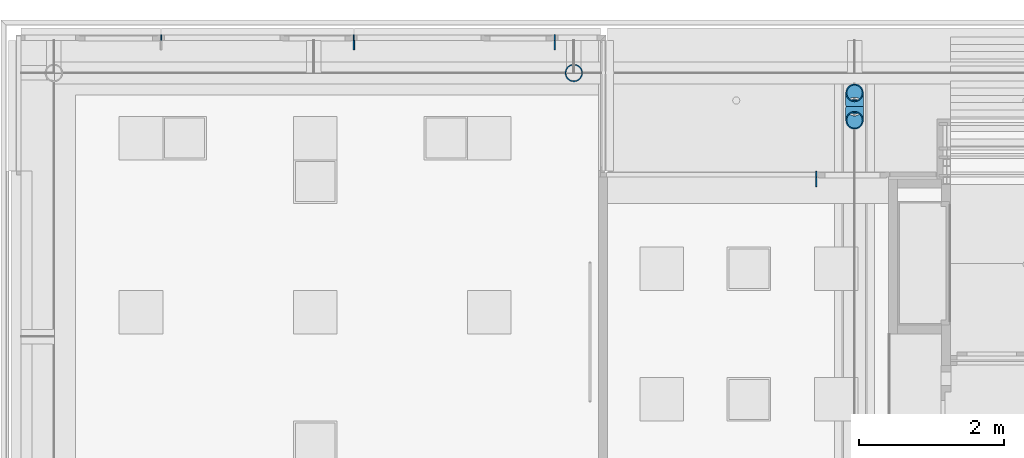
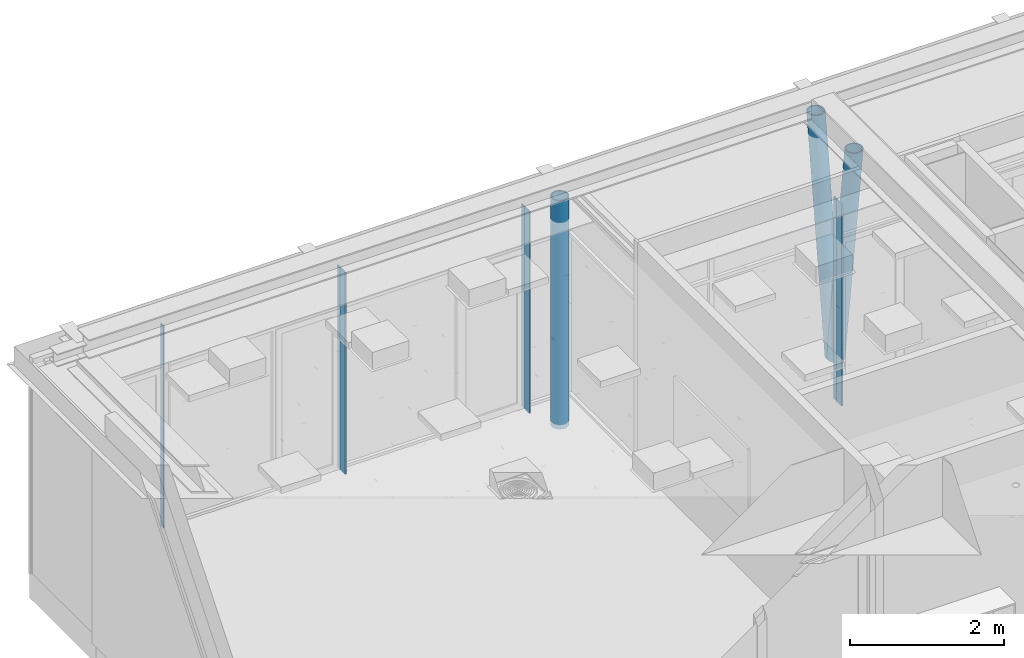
# One storey, part 19 of 347: 10 columns.
"""IFC2X3 building model written with IfcOpenShell, lengths in millimetres."""

from ifc_helpers import new_model, entity, si_unit, converted_unit, derived_unit, money_unit, direction, frame, origin_with_axes, place, context, subcontext, project, spatial, faceted_brep, material, type_object, element, save


model = new_model("IFC2X3")

# Units and contexts
model_context = context("Model", 3, precision=0.01, world=origin_with_axes(), true_north=direction((0.0, 1.0)))
plan_context = context("Plan", 3, precision=0.01, world=origin_with_axes(), true_north=direction((0.0, 1.0)))
body_context = subcontext(model_context, "Body", "Model", "MODEL_VIEW")
ifc_project = project(units=[si_unit("LENGTHUNIT", "METRE", prefix="MILLI"), si_unit("AREAUNIT", "SQUARE_METRE"), si_unit("VOLUMEUNIT", "CUBIC_METRE"), converted_unit("PLANEANGLEUNIT", "DEGREE", entity("IfcPlaneAngleMeasure", 0.0174532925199), si_unit("PLANEANGLEUNIT", "RADIAN"), dimensions=[0, 0, 0, 0, 0, 0, 0]), money_unit("EUR"), converted_unit("TIMEUNIT", "Year", entity("IfcTimeMeasure", 31556926.0), si_unit("TIMEUNIT", "SECOND"), dimensions=[0, 0, 1, 0, 0, 0, 0]), si_unit("MASSUNIT", "GRAM", prefix="KILO"), si_unit("THERMODYNAMICTEMPERATUREUNIT", "DEGREE_CELSIUS"), si_unit("LUMINOUSINTENSITYUNIT", "LUMEN"), si_unit("ENERGYUNIT", "JOULE", prefix="MEGA"), derived_unit("THERMALCONDUCTANCEUNIT", [(si_unit("POWERUNIT", "WATT"), 1), (si_unit("LENGTHUNIT", "METRE"), -1), (si_unit("THERMODYNAMICTEMPERATUREUNIT", "KELVIN"), -1)]), derived_unit("SPECIFICHEATCAPACITYUNIT", [(si_unit("ENERGYUNIT", "JOULE"), 1), (si_unit("MASSUNIT", "GRAM", prefix="KILO"), -1), (si_unit("THERMODYNAMICTEMPERATUREUNIT", "KELVIN"), -1)]), derived_unit("MASSDENSITYUNIT", [(si_unit("MASSUNIT", "GRAM", prefix="KILO"), 1), (si_unit("VOLUMEUNIT", "CUBIC_METRE"), -1)])], contexts=[model_context, plan_context])

# Site, building, storey
site_placement = place(None, origin_with_axes())
site = spatial("IfcSite", under=ifc_project, at=site_placement, Name="Site", CompositionType="ELEMENT")
building_placement = place(site_placement, origin_with_axes())
building = spatial("IfcBuilding", under=site, at=building_placement, Name="Naam gebouw", CompositionType="ELEMENT")
storey_placement = place(building_placement, origin_with_axes())
storey = spatial("IfcBuildingStorey", under=building, at=storey_placement, Name="begane grond", CompositionType="ELEMENT", Elevation=0.0)

# Columns
ifc_material_1 = material(Name="Metaal - Staal C wit")
column_type_1 = type_object("IfcColumnType", Name="Lucht D245", PredefinedType="COLUMN")
column_1_placement = place(storey_placement, frame((31737.5, 46586.9999775, -70.0), z_axis=(0.0, 0.0, 1.0), x_axis=(1.0, 0.0, 0.0)))
element("IfcColumn", 1, at=column_1_placement, inside=storey, type_object=column_type_1, material=ifc_material_1, Name="28_kolom ø 273mm", ObjectType="COLUMN", context=body_context, shape_type="Brep", body=[
    faceted_brep([(-122.25, 0.0, 0.0), (-119.184937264, -27.2031841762, 0.0), (-119.184937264, -27.2031841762, 3630.0), (-122.25, 0.0, 3630.0), (-119.184937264, 27.2031841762, 0.0), (-110.143444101, 53.0422871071, 0.0), (-95.5788987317, 76.2216282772, 0.0), (-76.2216282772, 95.5788987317, 0.0), (-53.0422871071, 110.143444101, 0.0), (-27.2031841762, 119.184937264, 0.0), (0.0, 122.25, 0.0), (27.2031841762, 119.184937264, 0.0), (53.0422871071, 110.143444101, 0.0), (76.2216282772, 95.5788987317, 0.0), (95.5788987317, 76.2216282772, 0.0), (110.143444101, 53.0422871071, 0.0), (119.184937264, 27.2031841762, 0.0), (122.25, 0.0, 0.0), (119.184937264, -27.2031841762, 0.0), (110.143444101, -53.0422871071, 0.0), (95.5788987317, -76.2216282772, 0.0), (76.2216282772, -95.5788987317, 0.0), (53.0422871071, -110.143444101, 0.0), (27.2031841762, -119.184937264, 0.0), (0.0, -122.25, 0.0), (-27.2031841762, -119.184937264, 0.0), (-53.0422871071, -110.143444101, 0.0), (-76.2216282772, -95.5788987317, 0.0), (-95.5788987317, -76.2216282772, 0.0), (-110.143444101, -53.0422871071, 0.0), (-106.25, 0.0, 0.0), (-102.629619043, -27.4995235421, 0.0), (-92.0151991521, -53.125, 0.0), (-75.1300955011, -75.1300955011, 0.0), (-53.125, -92.0151991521, 0.0), (-27.4995235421, -102.629619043, 0.0), (0.0, -106.25, 0.0), (27.4995235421, -102.629619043, 0.0), (53.125, -92.0151991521, 0.0), (75.1300955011, -75.1300955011, 0.0), (92.0151991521, -53.125, 0.0), (102.629619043, -27.4995235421, 0.0), (106.25, 0.0, 0.0), (102.629619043, 27.4995235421, 0.0), (92.0151991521, 53.125, 0.0), (75.1300955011, 75.1300955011, 0.0), (53.125, 92.0151991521, 0.0), (27.4995235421, 102.629619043, 0.0), (0.0, 106.25, 0.0), (-27.4995235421, 102.629619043, 0.0), (-53.125, 92.0151991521, 0.0), (-75.1300955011, 75.1300955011, 0.0), (-92.0151991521, 53.125, 0.0), (-102.629619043, 27.4995235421, 0.0), (-110.143444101, -53.0422871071, 3630.0), (-95.5788987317, -76.2216282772, 3630.0), (-76.2216282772, -95.5788987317, 3630.0), (-53.0422871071, -110.143444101, 3630.0), (-27.2031841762, -119.184937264, 3630.0), (0.0, -122.25, 3630.0), (27.2031841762, -119.184937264, 3630.0), (53.0422871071, -110.143444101, 3630.0), (76.2216282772, -95.5788987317, 3630.0), (95.5788987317, -76.2216282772, 3630.0), (110.143444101, -53.0422871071, 3630.0), (119.184937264, -27.2031841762, 3630.0), (122.25, 0.0, 3630.0), (119.184937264, 27.2031841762, 3630.0), (110.143444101, 53.0422871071, 3630.0), (95.5788987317, 76.2216282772, 3630.0), (76.2216282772, 95.5788987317, 3630.0), (53.0422871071, 110.143444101, 3630.0), (27.2031841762, 119.184937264, 3630.0), (0.0, 122.25, 3630.0), (-27.2031841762, 119.184937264, 3630.0), (-53.0422871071, 110.143444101, 3630.0), (-76.2216282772, 95.5788987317, 3630.0), (-95.5788987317, 76.2216282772, 3630.0), (-110.143444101, 53.0422871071, 3630.0), (-119.184937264, 27.2031841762, 3630.0), (-106.25, 0.0, 3630.0), (-102.629619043, 27.4995235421, 3630.0), (-92.0151991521, 53.125, 3630.0), (-75.1300955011, 75.1300955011, 3630.0), (-53.125, 92.0151991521, 3630.0), (-27.4995235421, 102.629619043, 3630.0), (0.0, 106.25, 3630.0), (27.4995235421, 102.629619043, 3630.0), (53.125, 92.0151991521, 3630.0), (75.1300955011, 75.1300955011, 3630.0), (92.0151991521, 53.125, 3630.0), (102.629619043, 27.4995235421, 3630.0), (106.25, 0.0, 3630.0), (102.629619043, -27.4995235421, 3630.0), (92.0151991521, -53.125, 3630.0), (75.1300955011, -75.1300955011, 3630.0), (53.125, -92.0151991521, 3630.0), (27.4995235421, -102.629619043, 3630.0), (0.0, -106.25, 3630.0), (-27.4995235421, -102.629619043, 3630.0), (-53.125, -92.0151991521, 3630.0), (-75.1300955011, -75.1300955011, 3630.0), (-92.0151991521, -53.125, 3630.0), (-102.629619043, -27.4995235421, 3630.0)], [[[0, 1, 2, 3]], [[0, 4, 5, 6, 7, 8, 9, 10, 11, 12, 13, 14, 15, 16, 17, 18, 19, 20, 21, 22, 23, 24, 25, 26, 27, 28, 29, 1], [30, 31, 32, 33, 34, 35, 36, 37, 38, 39, 40, 41, 42, 43, 44, 45, 46, 47, 48, 49, 50, 51, 52, 53]], [[1, 29, 54, 2]], [[3, 2, 54, 55, 56, 57, 58, 59, 60, 61, 62, 63, 64, 65, 66, 67, 68, 69, 70, 71, 72, 73, 74, 75, 76, 77, 78, 79], [80, 81, 82, 83, 84, 85, 86, 87, 88, 89, 90, 91, 92, 93, 94, 95, 96, 97, 98, 99, 100, 101, 102, 103]], [[4, 0, 3, 79]], [[5, 4, 79, 78]], [[6, 5, 78, 77]], [[7, 6, 77, 76]], [[8, 7, 76, 75]], [[9, 8, 75, 74]], [[10, 9, 74, 73]], [[11, 10, 73, 72]], [[12, 11, 72, 71]], [[13, 12, 71, 70]], [[14, 13, 70, 69]], [[15, 14, 69, 68]], [[16, 15, 68, 67]], [[17, 16, 67, 66]], [[18, 17, 66, 65]], [[19, 18, 65, 64]], [[20, 19, 64, 63]], [[21, 20, 63, 62]], [[22, 21, 62, 61]], [[23, 22, 61, 60]], [[24, 23, 60, 59]], [[25, 24, 59, 58]], [[26, 25, 58, 57]], [[27, 26, 57, 56]], [[28, 27, 56, 55]], [[29, 28, 55, 54]], [[31, 30, 80, 103]], [[32, 31, 103, 102]], [[33, 32, 102, 101]], [[34, 33, 101, 100]], [[35, 34, 100, 99]], [[36, 35, 99, 98]], [[37, 36, 98, 97]], [[38, 37, 97, 96]], [[39, 38, 96, 95]], [[40, 39, 95, 94]], [[41, 40, 94, 93]], [[42, 41, 93, 92]], [[43, 42, 92, 91]], [[44, 43, 91, 90]], [[45, 44, 90, 89]], [[46, 45, 89, 88]], [[47, 46, 88, 87]], [[48, 47, 87, 86]], [[49, 48, 86, 85]], [[50, 49, 85, 84]], [[51, 50, 84, 83]], [[52, 51, 83, 82]], [[53, 52, 82, 81]], [[30, 53, 81, 80]]]),
])
column_2_placement = place(storey_placement, frame((35605.0, 46102.3770701, -70.0), z_axis=(0.0, 0.0, 1.0), x_axis=(-1.0, 0.0, 0.0)))
element("IfcColumn", 2, at=column_2_placement, inside=storey, type_object=column_type_1, material=ifc_material_1, Name="28_kolom ø 273mm", ObjectType="COLUMN", context=body_context, shape_type="Brep", body=[
    faceted_brep([(119.184937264, 27.4379193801, 0.0), (110.143444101, 53.4999869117, 0.0), (110.143444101, 528.765503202, 3610.0), (119.184937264, 502.703435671, 3610.0), (122.25, 0.0, 0.0), (119.184937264, -27.4379193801, 0.0), (110.143444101, -53.4999869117, 0.0), (95.5788987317, -76.879341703, 0.0), (76.2216282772, -96.4036452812, 0.0), (53.0422871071, -111.093867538, 0.0), (27.2031841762, -120.21337939, 0.0), (0.0, -123.304890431, 0.0), (-27.2031841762, -120.21337939, 0.0), (-53.0422871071, -111.093867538, 0.0), (-76.2216282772, -96.4036452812, 0.0), (-95.5788987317, -76.879341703, 0.0), (-110.143444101, -53.4999869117, 0.0), (-119.184937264, -27.4379193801, 0.0), (-122.25, 0.0, 0.0), (-119.184937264, 27.4379193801, 0.0), (-110.143444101, 53.4999869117, 0.0), (-95.5788987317, 76.879341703, 0.0), (-76.2216282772, 96.4036452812, 0.0), (-53.0422871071, 111.093867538, 0.0), (-27.2031841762, 120.21337939, 0.0), (0.0, 123.304890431, 0.0), (27.2031841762, 120.21337939, 0.0), (53.0422871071, 111.093867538, 0.0), (76.2216282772, 96.4036452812, 0.0), (95.5788987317, 76.879341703, 0.0), (102.629619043, -27.7368158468, 0.0), (106.25, 0.0, 0.0), (102.629619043, 27.7368158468, 0.0), (92.0151991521, 53.5834135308, 0.0), (75.1300955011, 75.7783901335, 0.0), (53.125, 92.8091946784, 0.0), (27.4995235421, 103.51520598, 0.0), (0.0, 107.166827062, 0.0), (-27.4995235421, 103.51520598, 0.0), (-53.125, 92.8091946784, 0.0), (-75.1300955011, 75.7783901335, 0.0), (-92.0151991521, 53.5834135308, 0.0), (-102.629619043, 27.7368158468, 0.0), (-106.25, 0.0, 0.0), (-102.629619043, -27.7368158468, 0.0), (-92.0151991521, -53.5834135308, 0.0), (-75.1300955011, -75.7783901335, 0.0), (-53.125, -92.8091946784, 0.0), (-27.4995235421, -103.51520598, 0.0), (0.0, -107.166827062, 0.0), (27.4995235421, -103.51520598, 0.0), (53.125, -92.8091946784, 0.0), (75.1300955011, -75.7783901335, 0.0), (92.0151991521, -53.5834135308, 0.0), (95.5788987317, 552.144857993, 3610.0), (76.2216282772, 571.669161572, 3610.0), (53.0422871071, 586.359383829, 3610.0), (27.2031841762, 595.47889568, 3610.0), (0.0, 598.570406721, 3610.0), (-27.2031841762, 595.47889568, 3610.0), (-53.0422871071, 586.359383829, 3610.0), (-76.2216282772, 571.669161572, 3610.0), (-95.5788987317, 552.144857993, 3610.0), (-110.143444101, 528.765503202, 3610.0), (-119.184937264, 502.703435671, 3610.0), (-122.25, 475.26551629, 3610.0), (-119.184937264, 447.82759691, 3610.0), (-110.143444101, 421.765529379, 3610.0), (-95.5788987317, 398.386174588, 3610.0), (-76.2216282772, 378.861871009, 3610.0), (-53.0422871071, 364.171648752, 3610.0), (-27.2031841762, 355.052136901, 3610.0), (0.0, 351.96062586, 3610.0), (27.2031841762, 355.052136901, 3610.0), (53.0422871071, 364.171648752, 3610.0), (76.2216282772, 378.861871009, 3610.0), (95.5788987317, 398.386174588, 3610.0), (110.143444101, 421.765529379, 3610.0), (119.184937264, 447.82759691, 3610.0), (122.25, 475.26551629, 3610.0), (102.629619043, 447.528700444, 3610.0), (92.0151991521, 421.68210276, 3610.0), (75.1300955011, 399.487126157, 3610.0), (53.125, 382.456321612, 3610.0), (27.4995235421, 371.75031031, 3610.0), (0.0, 368.098689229, 3610.0), (-27.4995235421, 371.75031031, 3610.0), (-53.125, 382.456321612, 3610.0), (-75.1300955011, 399.487126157, 3610.0), (-92.0151991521, 421.68210276, 3610.0), (-102.629619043, 447.528700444, 3610.0), (-106.25, 475.26551629, 3610.0), (-102.629619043, 503.002332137, 3610.0), (-92.0151991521, 528.848929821, 3610.0), (-75.1300955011, 551.043906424, 3610.0), (-53.125, 568.074710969, 3610.0), (-27.4995235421, 578.780722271, 3610.0), (0.0, 582.432343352, 3610.0), (27.4995235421, 578.780722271, 3610.0), (53.125, 568.074710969, 3610.0), (75.1300955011, 551.043906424, 3610.0), (92.0151991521, 528.848929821, 3610.0), (102.629619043, 503.002332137, 3610.0), (106.25, 475.26551629, 3610.0)], [[[0, 1, 2, 3]], [[0, 4, 5, 6, 7, 8, 9, 10, 11, 12, 13, 14, 15, 16, 17, 18, 19, 20, 21, 22, 23, 24, 25, 26, 27, 28, 29, 1], [30, 31, 32, 33, 34, 35, 36, 37, 38, 39, 40, 41, 42, 43, 44, 45, 46, 47, 48, 49, 50, 51, 52, 53]], [[1, 29, 54, 2]], [[3, 2, 54, 55, 56, 57, 58, 59, 60, 61, 62, 63, 64, 65, 66, 67, 68, 69, 70, 71, 72, 73, 74, 75, 76, 77, 78, 79], [80, 81, 82, 83, 84, 85, 86, 87, 88, 89, 90, 91, 92, 93, 94, 95, 96, 97, 98, 99, 100, 101, 102, 103]], [[4, 0, 3, 79]], [[5, 4, 79, 78]], [[6, 5, 78, 77]], [[7, 6, 77, 76]], [[8, 7, 76, 75]], [[9, 8, 75, 74]], [[10, 9, 74, 73]], [[11, 10, 73, 72]], [[12, 11, 72, 71]], [[13, 12, 71, 70]], [[14, 13, 70, 69]], [[15, 14, 69, 68]], [[16, 15, 68, 67]], [[17, 16, 67, 66]], [[18, 17, 66, 65]], [[19, 18, 65, 64]], [[20, 19, 64, 63]], [[21, 20, 63, 62]], [[22, 21, 62, 61]], [[23, 22, 61, 60]], [[24, 23, 60, 59]], [[25, 24, 59, 58]], [[26, 25, 58, 57]], [[27, 26, 57, 56]], [[28, 27, 56, 55]], [[29, 28, 55, 54]], [[31, 30, 80, 103]], [[32, 31, 103, 102]], [[33, 32, 102, 101]], [[34, 33, 101, 100]], [[35, 34, 100, 99]], [[36, 35, 99, 98]], [[37, 36, 98, 97]], [[38, 37, 97, 96]], [[39, 38, 96, 95]], [[40, 39, 95, 94]], [[41, 40, 94, 93]], [[42, 41, 93, 92]], [[43, 42, 92, 91]], [[44, 43, 91, 90]], [[45, 44, 90, 89]], [[46, 45, 89, 88]], [[47, 46, 88, 87]], [[48, 47, 87, 86]], [[49, 48, 86, 85]], [[50, 49, 85, 84]], [[51, 50, 84, 83]], [[52, 51, 83, 82]], [[53, 52, 82, 81]], [[30, 53, 81, 80]]]),
])
column_3_placement = place(storey_placement, frame((35605.0, 46145.9641106, -70.0), z_axis=(0.0, 0.0, 1.0), x_axis=(1.0, 0.0, 0.0)))
element("IfcColumn", 3, at=column_3_placement, inside=storey, type_object=column_type_1, material=ifc_material_1, Name="28_kolom ø 273mm", ObjectType="COLUMN", context=body_context, shape_type="Brep", body=[
    faceted_brep([(-122.25, 0.0, 0.0), (-119.184937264, -27.4379193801, 0.0), (-119.184937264, 447.82759691, 3610.0), (-122.25, 475.26551629, 3610.0), (-119.184937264, 27.4379193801, 0.0), (-110.143444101, 53.4999869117, 0.0), (-95.5788987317, 76.879341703, 0.0), (-76.2216282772, 96.4036452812, 0.0), (-53.0422871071, 111.093867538, 0.0), (-27.2031841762, 120.21337939, 0.0), (0.0, 123.304890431, 0.0), (27.2031841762, 120.21337939, 0.0), (53.0422871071, 111.093867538, 0.0), (76.2216282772, 96.4036452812, 0.0), (95.5788987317, 76.879341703, 0.0), (110.143444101, 53.4999869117, 0.0), (119.184937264, 27.4379193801, 0.0), (122.25, 0.0, 0.0), (119.184937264, -27.4379193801, 0.0), (110.143444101, -53.4999869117, 0.0), (95.5788987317, -76.879341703, 0.0), (76.2216282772, -96.4036452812, 0.0), (53.0422871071, -111.093867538, 0.0), (27.2031841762, -120.21337939, 0.0), (0.0, -123.304890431, 0.0), (-27.2031841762, -120.21337939, 0.0), (-53.0422871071, -111.093867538, 0.0), (-76.2216282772, -96.4036452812, 0.0), (-95.5788987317, -76.879341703, 0.0), (-110.143444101, -53.4999869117, 0.0), (-106.25, 0.0, 0.0), (-102.629619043, -27.7368158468, 0.0), (-92.0151991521, -53.5834135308, 0.0), (-75.1300955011, -75.7783901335, 0.0), (-53.125, -92.8091946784, 0.0), (-27.4995235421, -103.51520598, 0.0), (0.0, -107.166827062, 0.0), (27.4995235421, -103.51520598, 0.0), (53.125, -92.8091946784, 0.0), (75.1300955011, -75.7783901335, 0.0), (92.0151991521, -53.5834135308, 0.0), (102.629619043, -27.7368158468, 0.0), (106.25, 0.0, 0.0), (102.629619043, 27.7368158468, 0.0), (92.0151991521, 53.5834135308, 0.0), (75.1300955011, 75.7783901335, 0.0), (53.125, 92.8091946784, 0.0), (27.4995235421, 103.51520598, 0.0), (0.0, 107.166827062, 0.0), (-27.4995235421, 103.51520598, 0.0), (-53.125, 92.8091946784, 0.0), (-75.1300955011, 75.7783901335, 0.0), (-92.0151991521, 53.5834135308, 0.0), (-102.629619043, 27.7368158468, 0.0), (-110.143444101, 421.765529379, 3610.0), (-95.5788987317, 398.386174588, 3610.0), (-76.2216282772, 378.861871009, 3610.0), (-53.0422871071, 364.171648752, 3610.0), (-27.2031841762, 355.052136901, 3610.0), (0.0, 351.96062586, 3610.0), (27.2031841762, 355.052136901, 3610.0), (53.0422871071, 364.171648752, 3610.0), (76.2216282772, 378.861871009, 3610.0), (95.5788987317, 398.386174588, 3610.0), (110.143444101, 421.765529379, 3610.0), (119.184937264, 447.82759691, 3610.0), (122.25, 475.26551629, 3610.0), (119.184937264, 502.703435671, 3610.0), (110.143444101, 528.765503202, 3610.0), (95.5788987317, 552.144857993, 3610.0), (76.2216282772, 571.669161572, 3610.0), (53.0422871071, 586.359383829, 3610.0), (27.2031841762, 595.47889568, 3610.0), (0.0, 598.570406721, 3610.0), (-27.2031841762, 595.47889568, 3610.0), (-53.0422871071, 586.359383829, 3610.0), (-76.2216282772, 571.669161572, 3610.0), (-95.5788987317, 552.144857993, 3610.0), (-110.143444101, 528.765503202, 3610.0), (-119.184937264, 502.703435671, 3610.0), (-106.25, 475.26551629, 3610.0), (-102.629619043, 503.002332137, 3610.0), (-92.0151991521, 528.848929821, 3610.0), (-75.1300955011, 551.043906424, 3610.0), (-53.125, 568.074710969, 3610.0), (-27.4995235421, 578.780722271, 3610.0), (0.0, 582.432343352, 3610.0), (27.4995235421, 578.780722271, 3610.0), (53.125, 568.074710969, 3610.0), (75.1300955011, 551.043906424, 3610.0), (92.0151991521, 528.848929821, 3610.0), (102.629619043, 503.002332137, 3610.0), (106.25, 475.26551629, 3610.0), (102.629619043, 447.528700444, 3610.0), (92.0151991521, 421.68210276, 3610.0), (75.1300955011, 399.487126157, 3610.0), (53.125, 382.456321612, 3610.0), (27.4995235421, 371.75031031, 3610.0), (0.0, 368.098689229, 3610.0), (-27.4995235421, 371.75031031, 3610.0), (-53.125, 382.456321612, 3610.0), (-75.1300955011, 399.487126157, 3610.0), (-92.0151991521, 421.68210276, 3610.0), (-102.629619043, 447.528700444, 3610.0)], [[[0, 1, 2, 3]], [[0, 4, 5, 6, 7, 8, 9, 10, 11, 12, 13, 14, 15, 16, 17, 18, 19, 20, 21, 22, 23, 24, 25, 26, 27, 28, 29, 1], [30, 31, 32, 33, 34, 35, 36, 37, 38, 39, 40, 41, 42, 43, 44, 45, 46, 47, 48, 49, 50, 51, 52, 53]], [[1, 29, 54, 2]], [[3, 2, 54, 55, 56, 57, 58, 59, 60, 61, 62, 63, 64, 65, 66, 67, 68, 69, 70, 71, 72, 73, 74, 75, 76, 77, 78, 79], [80, 81, 82, 83, 84, 85, 86, 87, 88, 89, 90, 91, 92, 93, 94, 95, 96, 97, 98, 99, 100, 101, 102, 103]], [[4, 0, 3, 79]], [[5, 4, 79, 78]], [[6, 5, 78, 77]], [[7, 6, 77, 76]], [[8, 7, 76, 75]], [[9, 8, 75, 74]], [[10, 9, 74, 73]], [[11, 10, 73, 72]], [[12, 11, 72, 71]], [[13, 12, 71, 70]], [[14, 13, 70, 69]], [[15, 14, 69, 68]], [[16, 15, 68, 67]], [[17, 16, 67, 66]], [[18, 17, 66, 65]], [[19, 18, 65, 64]], [[20, 19, 64, 63]], [[21, 20, 63, 62]], [[22, 21, 62, 61]], [[23, 22, 61, 60]], [[24, 23, 60, 59]], [[25, 24, 59, 58]], [[26, 25, 58, 57]], [[27, 26, 57, 56]], [[28, 27, 56, 55]], [[29, 28, 55, 54]], [[31, 30, 80, 103]], [[32, 31, 103, 102]], [[33, 32, 102, 101]], [[34, 33, 101, 100]], [[35, 34, 100, 99]], [[36, 35, 99, 98]], [[37, 36, 98, 97]], [[38, 37, 97, 96]], [[39, 38, 96, 95]], [[40, 39, 95, 94]], [[41, 40, 94, 93]], [[42, 41, 93, 92]], [[43, 42, 92, 91]], [[44, 43, 91, 90]], [[45, 44, 90, 89]], [[46, 45, 89, 88]], [[47, 46, 88, 87]], [[48, 47, 87, 86]], [[49, 48, 86, 85]], [[50, 49, 85, 84]], [[51, 50, 84, 83]], [[52, 51, 83, 82]], [[53, 52, 82, 81]], [[30, 53, 81, 80]]]),
])
column_type_2 = type_object("IfcColumnType", Name="Metaal - Staal C wit 20 x 130", PredefinedType="COLUMN")
for number, where, z_axis, x_axis, name in (
    (4, (31475.0, 46971.9999018, -10.0), (0.0, 0.0, 1.0), (-1.0, 0.0, 0.0), "28_kolom koker"),
    (5, (35077.4999938, 45087.9999243, -10.0), (0.0, 0.0, 1.0), (-1.0, 0.0, 0.0), "28_kolom koker"),
    (6, (28707.0, 46971.9999018, -10.0), (0.0, 0.0, 1.0), (-1.0, 0.0, 0.0), "28_kolom koker"),
):
    element("IfcColumn", number, at=place(storey_placement, frame(where, z_axis=z_axis, x_axis=x_axis)), inside=storey, type_object=column_type_2, material=ifc_material_1, Name=name, ObjectType="COLUMN", context=body_context, shape_type="Brep", body=[
        faceted_brep([(-10.0, -65.0, 3210.0), (-10.0, -65.0, 0.0), (10.0, -65.0, 0.0), (10.0, -65.0, 3210.0), (-10.0, 65.0, 3210.0), (-10.0, 65.0, 0.0), (10.0, 65.0, 0.0), (10.0, 65.0, 3210.0)], [[[0, 1, 2, 3]], [[4, 5, 1, 0]], [[2, 1, 5, 6]], [[3, 2, 6, 7]], [[4, 0, 3, 7]], [[7, 6, 5, 4]]]),
    ])
ifc_material_2 = material(Name="Metaal - Aluminium beige")
column_type_3 = type_object("IfcColumnType", Name="Metaal - Aluminium beige 15 x 80", PredefinedType="COLUMN")
for number, where, z_axis, x_axis, name in (
    (7, (31475.0, 47076.9999775, -10.0), (0.0, 0.0, 1.0), (-1.0, 0.0, 0.0), "28_kolom koker"),
    (8, (26052.0, 47076.9999775, -10.0), (0.0, 0.0, 1.0), (-1.0, 0.0, 0.0), "28_kolom koker"),
    (9, (35077.4999938, 45193.0, -10.0), (0.0, 0.0, 1.0), (-1.0, 0.0, 0.0), "28_kolom koker"),
    (10, (28707.0, 47076.9999775, -10.0), (0.0, 0.0, 1.0), (-1.0, 0.0, 0.0), "28_kolom koker"),
):
    element("IfcColumn", number, at=place(storey_placement, frame(where, z_axis=z_axis, x_axis=x_axis)), inside=storey, type_object=column_type_3, material=ifc_material_2, Name=name, ObjectType="COLUMN", context=body_context, shape_type="Brep", body=[
        faceted_brep([(-7.5, -40.0, 3210.0), (-7.5, -40.0, 0.0), (7.5, -40.0, 0.0), (7.5, -40.0, 3210.0), (-7.5, 40.0, 3210.0), (-7.5, 40.0, 0.0), (7.5, 40.0, 0.0), (7.5, 40.0, 3210.0)], [[[0, 1, 2, 3]], [[4, 5, 1, 0]], [[2, 1, 5, 6]], [[3, 2, 6, 7]], [[4, 0, 3, 7]], [[7, 6, 5, 4]]]),
    ])

save(model, "model.ifc")
